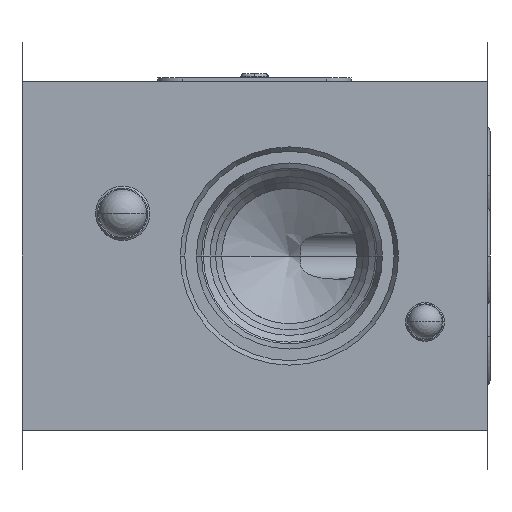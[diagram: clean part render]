
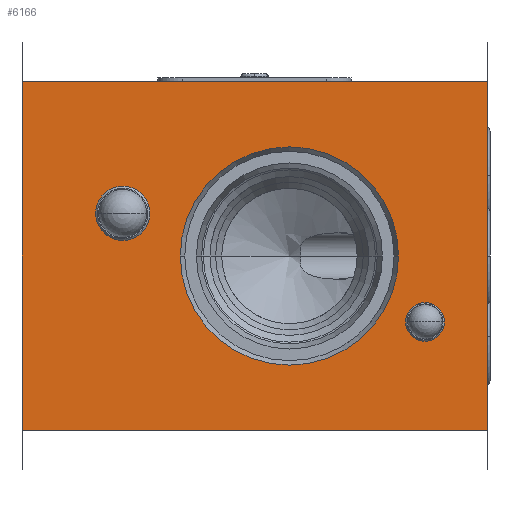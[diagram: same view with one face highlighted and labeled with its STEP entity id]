
A CAD part, left-side view. The second image highlights one B-rep face of the part: STEP entity #6166.
In plain terms, the highlighted planar face has unit normal (-1, 0, 0).
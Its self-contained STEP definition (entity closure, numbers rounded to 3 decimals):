
#52=DIRECTION('',(0.,0.,-1.));
#53=VECTOR('',#52,45.);
#54=CARTESIAN_POINT('',(0.,0.,0.));
#55=LINE('',#54,#53);
#59=DIRECTION('',(0.,1.,0.));
#60=VECTOR('',#59,60.);
#61=CARTESIAN_POINT('',(0.,0.,-45.));
#62=LINE('',#61,#60);
#66=DIRECTION('',(0.,0.,1.));
#67=VECTOR('',#66,45.);
#68=CARTESIAN_POINT('',(0.,60.,-45.));
#69=LINE('',#68,#67);
#73=DIRECTION('',(0.,-1.,0.));
#74=VECTOR('',#73,60.);
#75=CARTESIAN_POINT('',(0.,60.,0.));
#76=LINE('',#75,#74);
#80=CARTESIAN_POINT('',(0.,25.5,-22.5));
#81=DIRECTION('',(1.,0.,0.));
#82=DIRECTION('',(0.,-1.,0.));
#83=AXIS2_PLACEMENT_3D('',#80,#81,#82);
#88=CARTESIAN_POINT('',(0.,25.5,-22.5));
#89=DIRECTION('',(1.,0.,0.));
#90=DIRECTION('',(0.,1.,0.));
#91=AXIS2_PLACEMENT_3D('',#88,#89,#90);
#96=CARTESIAN_POINT('',(0.,8.,-31.));
#97=DIRECTION('',(-1.,0.,0.));
#98=DIRECTION('',(0.,1.,0.));
#99=AXIS2_PLACEMENT_3D('',#96,#97,#98);
#104=CARTESIAN_POINT('',(0.,8.,-31.));
#105=DIRECTION('',(-1.,0.,0.));
#106=DIRECTION('',(0.,-1.,0.));
#107=AXIS2_PLACEMENT_3D('',#104,#105,#106);
#112=CARTESIAN_POINT('',(0.,47.,-17.));
#113=DIRECTION('',(-1.,0.,0.));
#114=DIRECTION('',(0.,1.,0.));
#115=AXIS2_PLACEMENT_3D('',#112,#113,#114);
#120=CARTESIAN_POINT('',(0.,47.,-17.));
#121=DIRECTION('',(-1.,0.,0.));
#122=DIRECTION('',(0.,-1.,0.));
#123=AXIS2_PLACEMENT_3D('',#120,#121,#122);
#5685=CARTESIAN_POINT('',(0.,0.,0.));
#5686=CARTESIAN_POINT('',(0.,0.,-45.));
#5687=VERTEX_POINT('',#5685);
#5688=VERTEX_POINT('',#5686);
#5689=CARTESIAN_POINT('',(0.,60.,-45.));
#5690=VERTEX_POINT('',#5689);
#5691=CARTESIAN_POINT('',(0.,60.,0.));
#5692=VERTEX_POINT('',#5691);
#5793=CARTESIAN_POINT('',(0.,11.423,-22.5));
#5794=VERTEX_POINT('',#5793);
#5795=CARTESIAN_POINT('',(0.,39.577,-22.5));
#5796=VERTEX_POINT('',#5795);
#5944=CARTESIAN_POINT('',(0.,10.5,-31.));
#5945=VERTEX_POINT('',#5944);
#5946=CARTESIAN_POINT('',(0.,5.5,-31.));
#5947=VERTEX_POINT('',#5946);
#5995=CARTESIAN_POINT('',(0.,50.5,-17.));
#5996=VERTEX_POINT('',#5995);
#5997=CARTESIAN_POINT('',(0.,43.5,-17.));
#5998=VERTEX_POINT('',#5997);
#6133=CARTESIAN_POINT('',(0.,0.,0.));
#6134=DIRECTION('',(1.,0.,0.));
#6135=DIRECTION('',(0.,0.,-1.));
#6136=AXIS2_PLACEMENT_3D('',#6133,#6134,#6135);
#6137=PLANE('',#6136);
#6139=ORIENTED_EDGE('',*,*,#6138,.T.);
#6141=ORIENTED_EDGE('',*,*,#6140,.T.);
#6143=ORIENTED_EDGE('',*,*,#6142,.T.);
#6145=ORIENTED_EDGE('',*,*,#6144,.T.);
#6146=EDGE_LOOP('',(#6139,#6141,#6143,#6145));
#6147=FACE_OUTER_BOUND('',#6146,.F.);
#6149=ORIENTED_EDGE('',*,*,#6148,.F.);
#6151=ORIENTED_EDGE('',*,*,#6150,.F.);
#6152=EDGE_LOOP('',(#6149,#6151));
#6153=FACE_BOUND('',#6152,.F.);
#6155=ORIENTED_EDGE('',*,*,#6154,.T.);
#6157=ORIENTED_EDGE('',*,*,#6156,.T.);
#6158=EDGE_LOOP('',(#6155,#6157));
#6159=FACE_BOUND('',#6158,.F.);
#6161=ORIENTED_EDGE('',*,*,#6160,.T.);
#6163=ORIENTED_EDGE('',*,*,#6162,.T.);
#6164=EDGE_LOOP('',(#6161,#6163));
#6165=FACE_BOUND('',#6164,.F.);
#84=CIRCLE('',#83,14.077);
#92=CIRCLE('',#91,14.077);
#100=CIRCLE('',#99,2.5);
#108=CIRCLE('',#107,2.5);
#116=CIRCLE('',#115,3.5);
#124=CIRCLE('',#123,3.5);
#6138=EDGE_CURVE('',#5687,#5688,#55,.T.);
#6140=EDGE_CURVE('',#5688,#5690,#62,.T.);
#6142=EDGE_CURVE('',#5690,#5692,#69,.T.);
#6144=EDGE_CURVE('',#5692,#5687,#76,.T.);
#6148=EDGE_CURVE('',#5794,#5796,#84,.T.);
#6150=EDGE_CURVE('',#5796,#5794,#92,.T.);
#6154=EDGE_CURVE('',#5945,#5947,#100,.T.);
#6156=EDGE_CURVE('',#5947,#5945,#108,.T.);
#6160=EDGE_CURVE('',#5996,#5998,#116,.T.);
#6162=EDGE_CURVE('',#5998,#5996,#124,.T.);
#6166=ADVANCED_FACE('',(#6147,#6153,#6159,#6165),#6137,.F.);
